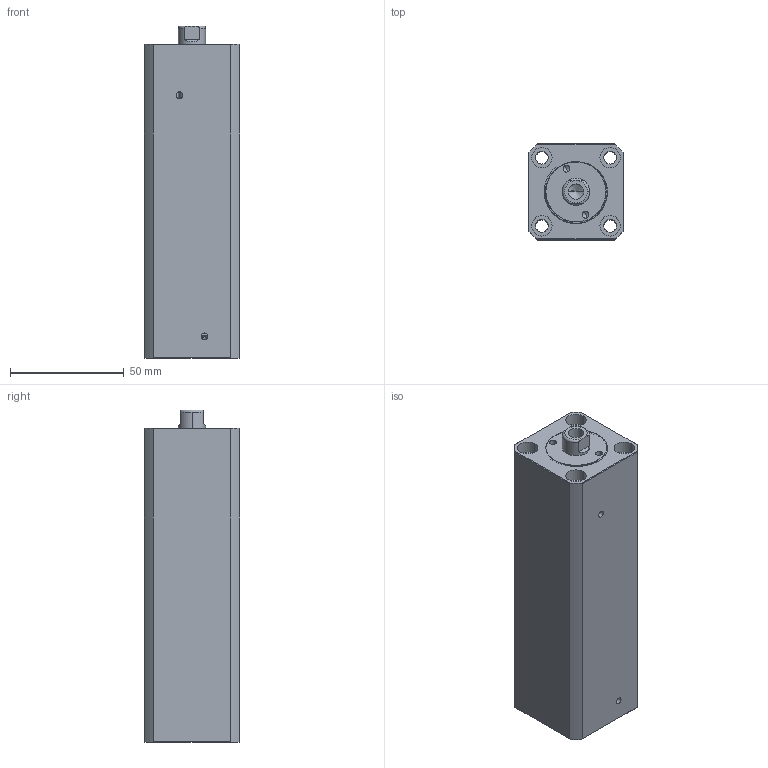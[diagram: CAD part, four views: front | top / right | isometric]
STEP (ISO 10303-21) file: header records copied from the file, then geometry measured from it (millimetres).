
FILE_DESCRIPTION (( 'STEP AP214' ), '1' );
FILE_NAME ('chtb-sdmb20x95n_asm.STEP', '2018-05-18T08:30:59', ( 'Windows' ), ( 'Microsoft' ), 'SwSTEP 2.0', 'SolidWorks 2015', '' );
FILE_SCHEMA (( 'AUTOMOTIVE_DESIGN' ));
Length unit declared in the file: millimetre
Products named in the file (4): QG_3; CHTB-SDMB20X95NHSG; CHTB-SDMB20X95NBT; chtb-sdmb20x95n_asm
Assembly tree (3 placements, depth 2):
  chtb-sdmb20x95n_asm
    CHTB-SDMB20X95NBT
    CHTB-SDMB20X95NHSG
    QG_3
Bounding box: 42 x 42 x 146 mm (x, y, z)
Volume: 202862.7 mm3; surface area: 56386 mm2
Topology: 3 solids, 3 shells, 201 faces, 535 edges, 354 vertices
Faces by surface type: cylinder 106, plane 43, torus 25, bspline 21, cone 6
Entity records: 11558 total; most frequent: CARTESIAN_POINT 6663, ORIENTED_EDGE 1058, DIRECTION 922, EDGE_CURVE 529, AXIS2_PLACEMENT_3D 388, VERTEX_POINT 354, EDGE_LOOP 239, CIRCLE 202
